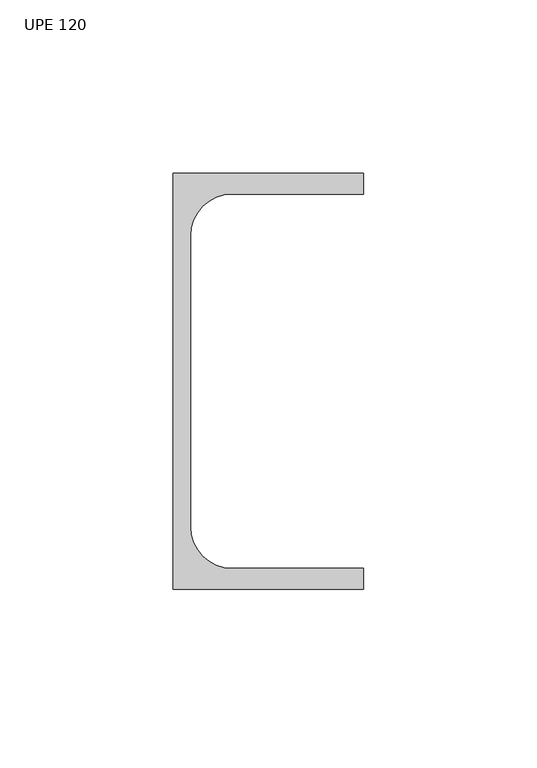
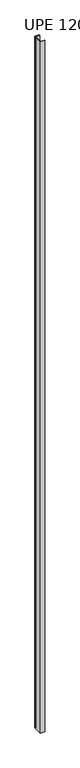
"""IFC4 building model written with IfcOpenShell, lengths in millimetres: column geometry, UPE - Canales de ala paralela - Pilar : UPE 120."""

from ifc_helpers import new_model, si_unit, point, frame_2d, origin, origin_with_axes, place, context, project, spatial, polyline, circle_curve, trimmed, segment, composite_curve, outline, extrude, source, transform, mapped, element, save


def upe_120_d63b093c(model_context):
    return source(origin(), model_context, "Body", "SweptSolid", [
        extrude(outline(composite_curve([segment(polyline([(-19.8, 60.0), (35.2, 60.0), (35.2, 54.0), (-2.8, 54.0)]), True, "CONTINUOUS"), segment(trimmed(circle_curve(frame_2d((-2.8, 42.0)), 12.0), [point((-2.8, 54.0))], [point((-14.8, 42.0))], True, "CARTESIAN"), True, "CONTINUOUS"), segment(polyline([(-14.8, 42.0), (-14.8, -42.0)]), True, "CONTINUOUS"), segment(trimmed(circle_curve(frame_2d((-2.8, -42.0)), 12.0), [point((-14.8, -42.0))], [point((-2.8, -54.0))], True, "CARTESIAN"), True, "CONTINUOUS"), segment(polyline([(-2.8, -54.0), (35.2, -54.0), (35.2, -60.0), (-19.8, -60.0), (-19.8, 60.0)]), True, "CONTINUOUS")], self_intersect=False)), origin_with_axes(), (0.0, 0.0, 1.0), 9250.0),
    ])


if __name__ == "__main__":
    model = new_model("IFC4")
    model_context = context("Model", 3, world=origin())
    ifc_project = project(units=[si_unit("LENGTHUNIT", "METRE", prefix="MILLI")], contexts=[model_context])
    site = spatial("IfcSite", under=ifc_project)
    building = spatial("IfcBuilding", under=site)
    placement = place(None, origin())
    upe_120_shape = upe_120_d63b093c(model_context)
    element("IfcColumn", 1, ObjectType="UPE - Canales de ala paralela - Pilar : UPE 120", at=placement, inside=building, context=model_context, shape_type="MappedRepresentation", body=[
        mapped(upe_120_shape, transform((0.0, 0.0, 0.0), x_axis=(1.0, 0.0, 0.0), y_axis=(0.0, 1.0, 0.0), z_axis=(0.0, 0.0, 1.0))),
    ])
    save(model, "model.ifc")
